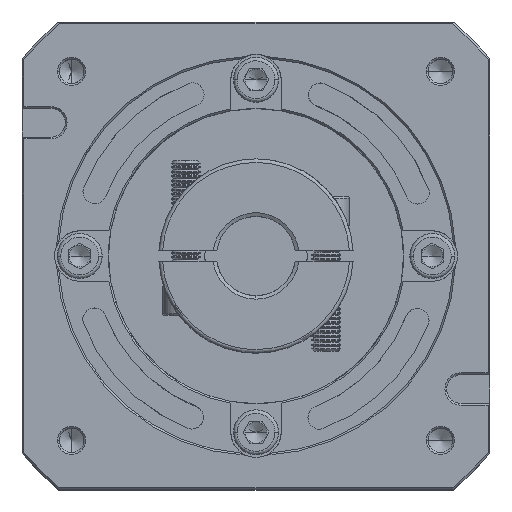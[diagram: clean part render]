
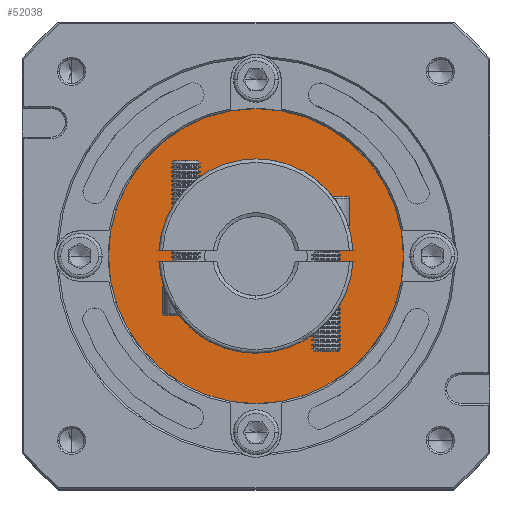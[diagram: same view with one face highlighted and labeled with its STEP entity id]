
A CAD part, top view. The second image highlights one B-rep face of the part: STEP entity #52038.
In plain terms, the highlighted planar face has unit normal (0, 0, 1).
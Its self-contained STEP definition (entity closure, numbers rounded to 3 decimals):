
#2724 = CIRCLE ( 'NONE', #101853, 20. ) ;
#4899 = CARTESIAN_POINT ( 'NONE',  ( 60.547, 56.49, -19.194 ) ) ;
#8768 = VERTEX_POINT ( 'NONE', #134040 ) ;
#21663 = CIRCLE ( 'NONE', #44412, 41. ) ;
#22472 = CARTESIAN_POINT ( 'NONE',  ( 101.547, 56.49, -19.194 ) ) ;
#24384 = DIRECTION ( 'NONE',  ( 0., 0., -1. ) ) ;
#26412 = PLANE ( 'NONE',  #37911 ) ;
#33677 = FACE_OUTER_BOUND ( 'NONE', #82733, .T. ) ;
#35669 = DIRECTION ( 'NONE',  ( 1., 0., 0. ) ) ;
#37177 = EDGE_CURVE ( 'NONE', #135342, #8768, #52528, .T. ) ;
#37911 = AXIS2_PLACEMENT_3D ( 'NONE', #4899, #58094, #35669 ) ;
#40801 = CARTESIAN_POINT ( 'NONE',  ( 60.547, 56.49, -19.194 ) ) ;
#44412 = AXIS2_PLACEMENT_3D ( 'NONE', #68971, #91071, #80519 ) ;
#45360 = VERTEX_POINT ( 'NONE', #54437 ) ;
#46416 = CARTESIAN_POINT ( 'NONE',  ( 60.547, 56.49, -19.194 ) ) ;
#48864 = EDGE_LOOP ( 'NONE', ( #135186, #130030 ) ) ;
#52038 = ADVANCED_FACE ( 'NONE', ( #33677, #61543 ), #26412, .T. ) ;
#52528 = CIRCLE ( 'NONE', #120714, 20. ) ;
#54437 = CARTESIAN_POINT ( 'NONE',  ( 19.547, 56.49, -19.194 ) ) ;
#56437 = DIRECTION ( 'NONE',  ( 1., 0., 0. ) ) ;
#58094 = DIRECTION ( 'NONE',  ( 0., 0., 1. ) ) ;
#59067 = ORIENTED_EDGE ( 'NONE', *, *, #64953, .T. ) ;
#61543 = FACE_BOUND ( 'NONE', #48864, .T. ) ;
#61926 = DIRECTION ( 'NONE',  ( 1., 0., 0. ) ) ;
#64523 = EDGE_CURVE ( 'NONE', #45360, #89959, #122377, .T. ) ;
#64953 = EDGE_CURVE ( 'NONE', #89959, #45360, #21663, .T. ) ;
#68971 = CARTESIAN_POINT ( 'NONE',  ( 60.547, 56.49, -19.194 ) ) ;
#77637 = DIRECTION ( 'NONE',  ( 0., 0., -1. ) ) ;
#80519 = DIRECTION ( 'NONE',  ( 1., 0., 0. ) ) ;
#82733 = EDGE_LOOP ( 'NONE', ( #59067, #102757 ) ) ;
#85405 = EDGE_CURVE ( 'NONE', #8768, #135342, #2724, .T. ) ;
#89320 = AXIS2_PLACEMENT_3D ( 'NONE', #40801, #125930, #61926 ) ;
#89959 = VERTEX_POINT ( 'NONE', #22472 ) ;
#91071 = DIRECTION ( 'NONE',  ( 0., 0., 1. ) ) ;
#101853 = AXIS2_PLACEMENT_3D ( 'NONE', #46416, #24384, #120073 ) ;
#102757 = ORIENTED_EDGE ( 'NONE', *, *, #64523, .T. ) ;
#108475 = CARTESIAN_POINT ( 'NONE',  ( 60.547, 56.49, -19.194 ) ) ;
#120073 = DIRECTION ( 'NONE',  ( 1., 0., 0. ) ) ;
#120714 = AXIS2_PLACEMENT_3D ( 'NONE', #108475, #77637, #56437 ) ;
#122377 = CIRCLE ( 'NONE', #89320, 41. ) ;
#125930 = DIRECTION ( 'NONE',  ( 0., 0., 1. ) ) ;
#129540 = CARTESIAN_POINT ( 'NONE',  ( 80.547, 56.49, -19.194 ) ) ;
#130030 = ORIENTED_EDGE ( 'NONE', *, *, #85405, .T. ) ;
#134040 = CARTESIAN_POINT ( 'NONE',  ( 40.547, 56.49, -19.194 ) ) ;
#135186 = ORIENTED_EDGE ( 'NONE', *, *, #37177, .T. ) ;
#135342 = VERTEX_POINT ( 'NONE', #129540 ) ;
